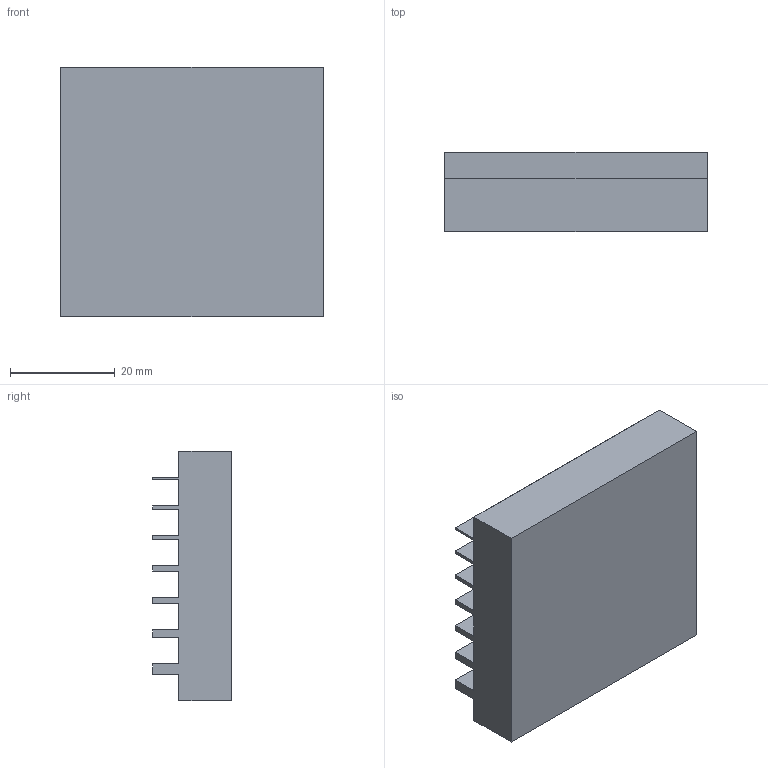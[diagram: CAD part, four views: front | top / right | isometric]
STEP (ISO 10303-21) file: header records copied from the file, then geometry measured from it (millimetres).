
FILE_DESCRIPTION((''),'2;1');
FILE_NAME('SPESSOREMINIMO','2019-12-04T13:15:26',('crossi'),(''),'CREO PARAMETRIC BY PTC INC, 2017260','CREO PARAMETRIC BY PTC INC, 2017260','');
FILE_SCHEMA(('AUTOMOTIVE_DESIGN { 1 0 10303 214 1 1 1 1 }'));
Length unit declared in the file: millimetre
Products named in the file (1): SPESSOREMINIMO
Bounding box: 50 x 15 x 47.5 mm (x, y, z)
Volume: 25543.2 mm3; surface area: 10789.3 mm2
Topology: 1 solids, 1 shells, 467 faces, 1323 edges, 882 vertices
Faces by surface type: plane 467
Entity records: 15006 total; most frequent: CARTESIAN_POINT 2674, ORIENTED_EDGE 2646, DIRECTION 2257, VECTOR 1323, LINE 1323, EDGE_CURVE 1323, VERTEX_POINT 882, EDGE_LOOP 491
